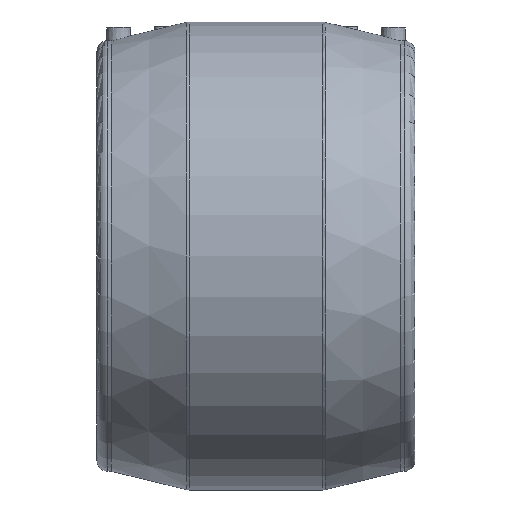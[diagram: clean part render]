
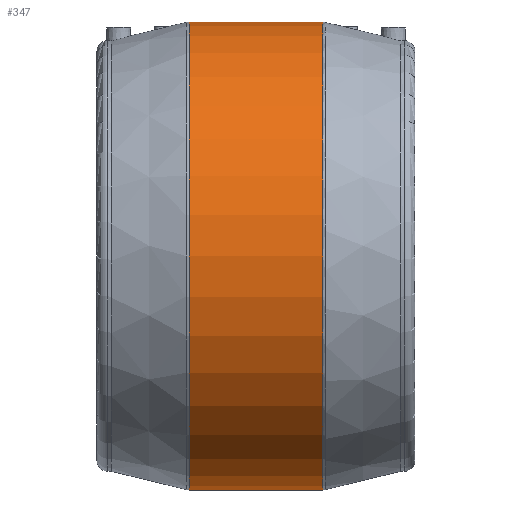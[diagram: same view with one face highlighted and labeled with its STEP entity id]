
A CAD part, front view. The second image highlights one B-rep face of the part: STEP entity #347.
In plain terms, the highlighted cylindrical face has radius 195 mm (diameter 390 mm), a full revolution.
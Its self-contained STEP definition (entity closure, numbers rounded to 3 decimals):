
#37=CYLINDRICAL_SURFACE('',#400,195.);
#82=ORIENTED_EDGE('',*,*,#146,.T.);
#83=ORIENTED_EDGE('',*,*,#147,.T.);
#146=EDGE_CURVE('',#178,#178,#204,.F.);
#147=EDGE_CURVE('',#179,#179,#205,.T.);
#178=VERTEX_POINT('',#667);
#179=VERTEX_POINT('',#669);
#204=CIRCLE('',#401,195.);
#205=CIRCLE('',#402,195.);
#238=EDGE_LOOP('',(#82));
#239=EDGE_LOOP('',(#83));
#294=FACE_BOUND('',#238,.T.);
#295=FACE_BOUND('',#239,.T.);
#347=ADVANCED_FACE('',(#294,#295),#37,.T.);
#400=AXIS2_PLACEMENT_3D('',#665,#477,#478);
#401=AXIS2_PLACEMENT_3D('',#666,#479,#480);
#402=AXIS2_PLACEMENT_3D('',#668,#481,#482);
#477=DIRECTION('',(-1.,0.,0.));
#478=DIRECTION('',(0.,0.,1.));
#479=DIRECTION('',(1.,0.,0.));
#480=DIRECTION('',(0.,0.,-1.));
#481=DIRECTION('',(1.,0.,0.));
#482=DIRECTION('',(0.,0.,-1.));
#665=CARTESIAN_POINT('',(-60.,0.,0.));
#666=CARTESIAN_POINT('',(55.797,0.,0.));
#667=CARTESIAN_POINT('',(55.797,0.,-195.));
#668=CARTESIAN_POINT('',(-55.797,0.,0.));
#669=CARTESIAN_POINT('',(-55.797,0.,-195.));
